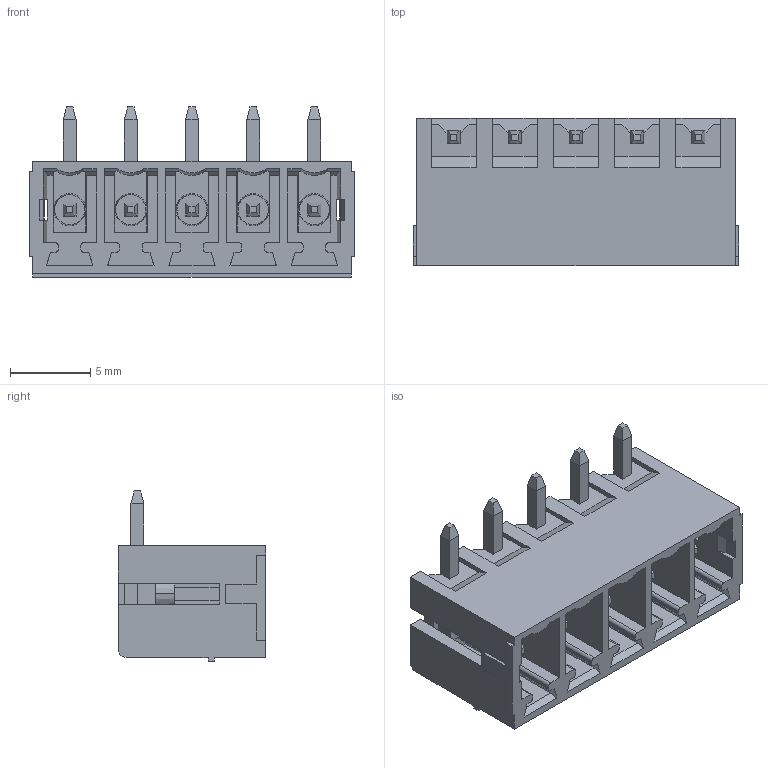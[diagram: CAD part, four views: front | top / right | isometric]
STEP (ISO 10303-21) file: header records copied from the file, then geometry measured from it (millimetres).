
FILE_DESCRIPTION(('FreeCAD Model'),'2;1');
FILE_NAME('Open CASCADE Shape Model','2023-05-24T16:14:12',('Author'),( ''),'Open CASCADE STEP processor 7.6','FreeCAD','Unknown');
FILE_SCHEMA(('AUTOMOTIVE_DESIGN { 1 0 10303 214 1 1 1 1 }'));
Length unit declared in the file: millimetre
Products named in the file (1): BR7MN2-05
Bounding box: 20.24 x 9.2 x 10.6 mm (x, y, z)
Volume: 614.1 mm3; surface area: 1869.8 mm2
Topology: 1 solids, 6 shells, 467 faces, 1218 edges, 769 vertices
Faces by surface type: plane 411, cylinder 31, cone 15, sphere 10
Entity records: 30298 total; most frequent: CARTESIAN_POINT 5715, DIRECTION 4593, LINE 3380, VECTOR 3380, ORIENTED_EDGE 2416, PCURVE 2416, DEFINITIONAL_REPRESENTATION 2416, EDGE_CURVE 1208
